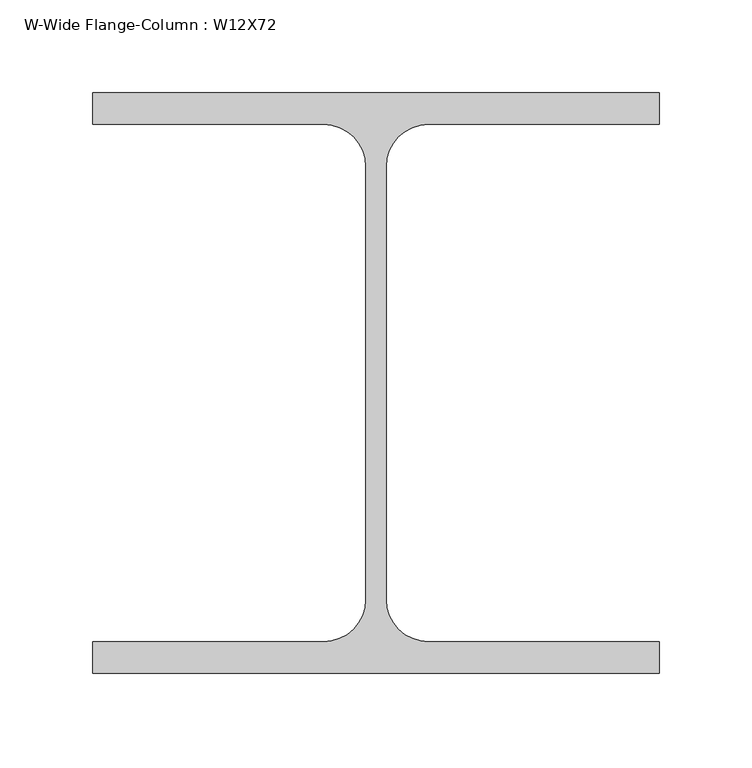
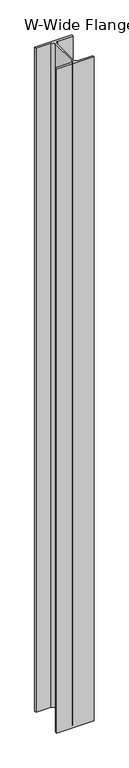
"""IFC4 building model written with IfcOpenShell, lengths in millimetres: column geometry, W-Wide Flange-Column : W12X72."""

from ifc_helpers import new_model, si_unit, point, frame, frame_2d, origin, place, context, project, spatial, polyline, circle_curve, trimmed, segment, composite_curve, outline, extrude, source, transform, mapped, element, save


def w_wide_flange_column_w12x72_1997fb71(model_context):
    return source(origin(), model_context, "Body", "SweptSolid", [
        extrude(outline(composite_curve([segment(polyline([(152.4, 156.21), (152.4, 139.192), (28.1305, 139.192)]), True, "CONTINUOUS"), segment(trimmed(circle_curve(frame_2d((28.1305, 116.5225)), 22.6695), [point((28.1305, 139.192))], [point((5.461, 116.5225))], True, "CARTESIAN"), True, "CONTINUOUS"), segment(polyline([(5.461, 116.5225), (5.461, -116.5225)]), True, "CONTINUOUS"), segment(trimmed(circle_curve(frame_2d((28.1305, -116.5225)), 22.6695), [point((5.461, -116.5225))], [point((28.1305, -139.192))], True, "CARTESIAN"), True, "CONTINUOUS"), segment(polyline([(28.1305, -139.192), (152.4, -139.192), (152.4, -156.21), (-152.4, -156.21), (-152.4, -139.192), (-28.1305, -139.192)]), True, "CONTINUOUS"), segment(trimmed(circle_curve(frame_2d((-28.1305, -116.5225)), 22.6695), [point((-28.1305, -139.192))], [point((-5.461, -116.5225))], True, "CARTESIAN"), True, "CONTINUOUS"), segment(polyline([(-5.461, -116.5225), (-5.461, 116.5225)]), True, "CONTINUOUS"), segment(trimmed(circle_curve(frame_2d((-28.1305, 116.5225)), 22.6695), [point((-5.461, 116.5225))], [point((-28.1305, 139.192))], True, "CARTESIAN"), True, "CONTINUOUS"), segment(polyline([(-28.1305, 139.192), (-152.4, 139.192), (-152.4, 156.21), (152.4, 156.21)]), True, "CONTINUOUS")], self_intersect=False)), frame((0.0, 0.0, -2743.2), z_axis=(0.0, 0.0, 1.0), x_axis=(1.0, 0.0, 0.0)), (0.0, 0.0, 1.0), 5743.2),
    ])


if __name__ == "__main__":
    model = new_model("IFC4")
    model_context = context("Model", 3, world=origin())
    ifc_project = project(units=[si_unit("LENGTHUNIT", "METRE", prefix="MILLI")], contexts=[model_context])
    site = spatial("IfcSite", under=ifc_project)
    building = spatial("IfcBuilding", under=site)
    placement = place(None, origin())
    w_wide_flange_column_w12x72_shape = w_wide_flange_column_w12x72_1997fb71(model_context)
    element("IfcColumn", 1, ObjectType="W-Wide Flange-Column : W12X72", at=placement, inside=building, context=model_context, shape_type="MappedRepresentation", body=[
        mapped(w_wide_flange_column_w12x72_shape, transform((0.0, 0.0, 0.0), x_axis=(1.0, 0.0, 0.0), y_axis=(0.0, 1.0, 0.0), z_axis=(0.0, 0.0, 1.0))),
    ])
    save(model, "model.ifc")
